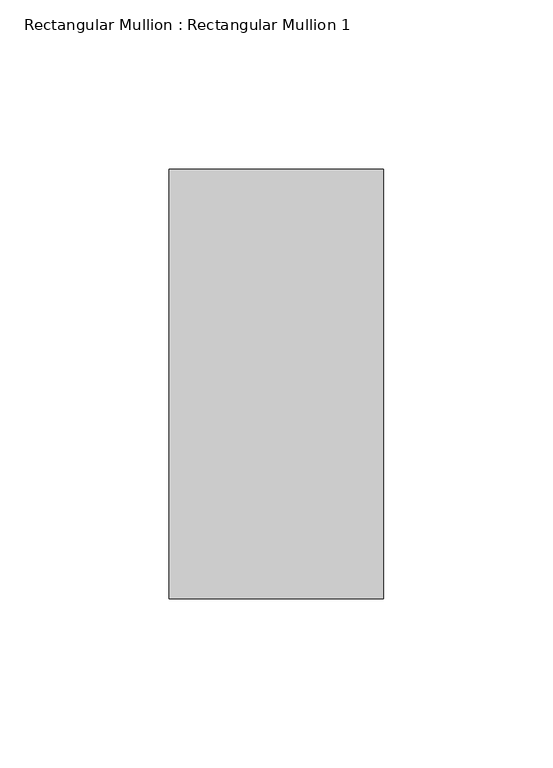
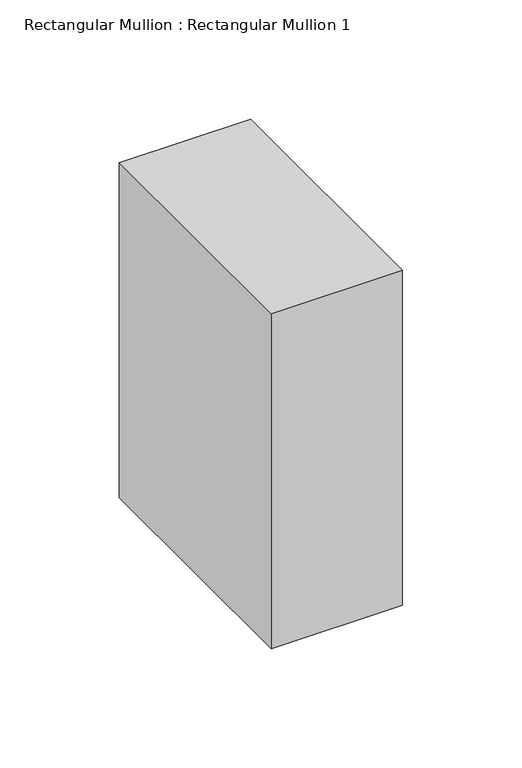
"""IFC4 building model written with IfcOpenShell, lengths in millimetres: member geometry, Rectangular Mullion : Rectangular Mullion 1."""

from ifc_helpers import new_model, si_unit, frame, origin, place, context, project, spatial, polyline, outline, extrude, source, transform, mapped, element, save


def rectangular_mullion_rectangular_mullion_1_8c79227d(model_context):
    return source(origin(), model_context, "Body", "SweptSolid", [
        extrude(outline(polyline([(0.0, 63.5), (0.0, -63.5), (-63.5, -63.5), (-63.5, 63.5), (0.0, 63.5)])), frame((0.0, 0.0, -171.3104781), z_axis=(0.0, 0.0, 1.0), x_axis=(1.0, 0.0, 0.0)), (0.0, 0.0, 1.0), 171.3104781),
    ])


if __name__ == "__main__":
    model = new_model("IFC4")
    model_context = context("Model", 3, world=origin())
    ifc_project = project(units=[si_unit("LENGTHUNIT", "METRE", prefix="MILLI")], contexts=[model_context])
    site = spatial("IfcSite", under=ifc_project)
    building = spatial("IfcBuilding", under=site)
    placement = place(None, origin())
    rectangular_mullion_rectangular_mullion_1_shape = rectangular_mullion_rectangular_mullion_1_8c79227d(model_context)
    element("IfcMember", 1, ObjectType="Rectangular Mullion : Rectangular Mullion 1", at=placement, inside=building, context=model_context, shape_type="MappedRepresentation", body=[
        mapped(rectangular_mullion_rectangular_mullion_1_shape, transform((0.0, 0.0, 0.0), x_axis=(1.0, 0.0, 0.0), y_axis=(0.0, 1.0, 0.0), z_axis=(0.0, 0.0, 1.0))),
    ])
    save(model, "model.ifc")
